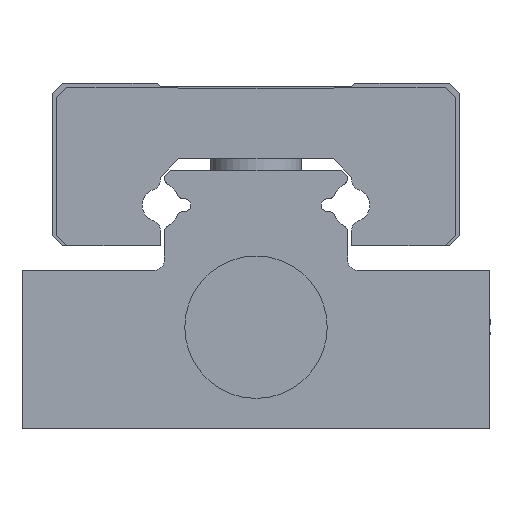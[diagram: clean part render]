
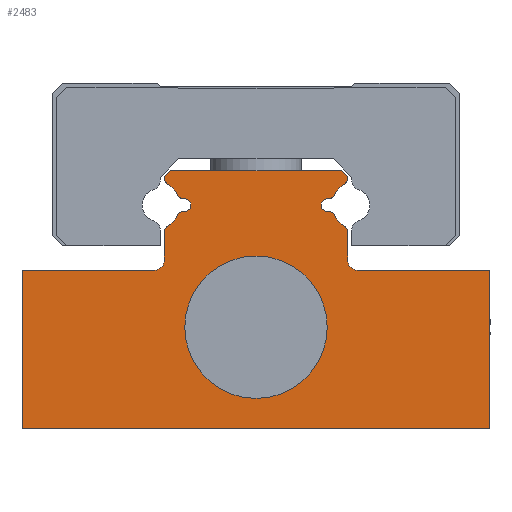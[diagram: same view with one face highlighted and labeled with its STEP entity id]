
A CAD part, front view. The second image highlights one B-rep face of the part: STEP entity #2483.
In plain terms, the highlighted planar face has unit normal (0, -1, 0).
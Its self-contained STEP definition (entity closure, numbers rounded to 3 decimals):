
#92=LINE('',#3748,#308);
#98=LINE('',#3767,#314);
#104=LINE('',#3788,#320);
#110=LINE('',#3801,#326);
#112=LINE('',#3809,#328);
#122=LINE('',#3857,#338);
#125=LINE('',#3863,#341);
#127=LINE('',#3866,#343);
#130=LINE('',#3872,#346);
#140=LINE('',#3920,#356);
#145=LINE('',#3935,#361);
#148=LINE('',#3949,#364);
#308=VECTOR('',#2960,1000.);
#314=VECTOR('',#2974,1000.);
#320=VECTOR('',#2990,1000.);
#326=VECTOR('',#3000,1000.);
#328=VECTOR('',#3010,1000.);
#338=VECTOR('',#3064,1000.);
#341=VECTOR('',#3069,1000.);
#343=VECTOR('',#3073,1000.);
#346=VECTOR('',#3078,1000.);
#356=VECTOR('',#3132,1000.);
#361=VECTOR('',#3147,1000.);
#364=VECTOR('',#3160,1000.);
#690=ORIENTED_EDGE('',*,*,#1308,.T.);
#691=ORIENTED_EDGE('',*,*,#1223,.F.);
#692=ORIENTED_EDGE('',*,*,#1204,.F.);
#693=ORIENTED_EDGE('',*,*,#1305,.F.);
#694=ORIENTED_EDGE('',*,*,#1298,.F.);
#695=ORIENTED_EDGE('',*,*,#1293,.T.);
#696=ORIENTED_EDGE('',*,*,#1290,.F.);
#697=ORIENTED_EDGE('',*,*,#1287,.F.);
#698=ORIENTED_EDGE('',*,*,#1284,.T.);
#699=ORIENTED_EDGE('',*,*,#1281,.F.);
#700=ORIENTED_EDGE('',*,*,#1278,.T.);
#701=ORIENTED_EDGE('',*,*,#1275,.F.);
#702=ORIENTED_EDGE('',*,*,#1272,.T.);
#703=ORIENTED_EDGE('',*,*,#1269,.F.);
#704=ORIENTED_EDGE('',*,*,#1266,.F.);
#705=ORIENTED_EDGE('',*,*,#1263,.F.);
#706=ORIENTED_EDGE('',*,*,#1213,.F.);
#707=ORIENTED_EDGE('',*,*,#1261,.F.);
#708=ORIENTED_EDGE('',*,*,#1258,.F.);
#709=ORIENTED_EDGE('',*,*,#1255,.F.);
#710=ORIENTED_EDGE('',*,*,#1252,.T.);
#711=ORIENTED_EDGE('',*,*,#1249,.F.);
#712=ORIENTED_EDGE('',*,*,#1246,.T.);
#713=ORIENTED_EDGE('',*,*,#1243,.F.);
#714=ORIENTED_EDGE('',*,*,#1240,.T.);
#715=ORIENTED_EDGE('',*,*,#1237,.F.);
#716=ORIENTED_EDGE('',*,*,#1234,.F.);
#717=ORIENTED_EDGE('',*,*,#1231,.T.);
#718=ORIENTED_EDGE('',*,*,#1230,.F.);
#1204=EDGE_CURVE('',#1542,#1543,#92,.T.);
#1213=EDGE_CURVE('',#1551,#1552,#98,.T.);
#1223=EDGE_CURVE('',#1543,#1561,#104,.T.);
#1230=EDGE_CURVE('',#1561,#1564,#110,.T.);
#1231=EDGE_CURVE('',#1566,#1564,#1794,.T.);
#1234=EDGE_CURVE('',#1566,#1568,#112,.T.);
#1237=EDGE_CURVE('',#1568,#1570,#1796,.T.);
#1240=EDGE_CURVE('',#1572,#1570,#1798,.T.);
#1243=EDGE_CURVE('',#1572,#1574,#1800,.T.);
#1246=EDGE_CURVE('',#1576,#1574,#1802,.T.);
#1249=EDGE_CURVE('',#1576,#1578,#1804,.T.);
#1252=EDGE_CURVE('',#1580,#1578,#1806,.T.);
#1255=EDGE_CURVE('',#1580,#1582,#1808,.T.);
#1258=EDGE_CURVE('',#1582,#1584,#122,.T.);
#1261=EDGE_CURVE('',#1584,#1551,#125,.T.);
#1263=EDGE_CURVE('',#1552,#1586,#127,.T.);
#1266=EDGE_CURVE('',#1586,#1588,#130,.T.);
#1269=EDGE_CURVE('',#1588,#1590,#1810,.T.);
#1272=EDGE_CURVE('',#1592,#1590,#1812,.T.);
#1275=EDGE_CURVE('',#1592,#1594,#1814,.T.);
#1278=EDGE_CURVE('',#1596,#1594,#1816,.T.);
#1281=EDGE_CURVE('',#1596,#1598,#1818,.T.);
#1284=EDGE_CURVE('',#1600,#1598,#1820,.T.);
#1287=EDGE_CURVE('',#1600,#1602,#1822,.T.);
#1290=EDGE_CURVE('',#1602,#1604,#140,.T.);
#1293=EDGE_CURVE('',#1606,#1604,#1824,.T.);
#1298=EDGE_CURVE('',#1606,#1609,#145,.T.);
#1305=EDGE_CURVE('',#1609,#1542,#148,.T.);
#1308=EDGE_CURVE('',#1616,#1616,#1832,.T.);
#1542=VERTEX_POINT('',#3749);
#1543=VERTEX_POINT('',#3750);
#1551=VERTEX_POINT('',#3768);
#1552=VERTEX_POINT('',#3769);
#1561=VERTEX_POINT('',#3789);
#1564=VERTEX_POINT('',#3796);
#1566=VERTEX_POINT('',#3804);
#1568=VERTEX_POINT('',#3810);
#1570=VERTEX_POINT('',#3816);
#1572=VERTEX_POINT('',#3822);
#1574=VERTEX_POINT('',#3828);
#1576=VERTEX_POINT('',#3834);
#1578=VERTEX_POINT('',#3840);
#1580=VERTEX_POINT('',#3846);
#1582=VERTEX_POINT('',#3852);
#1584=VERTEX_POINT('',#3858);
#1586=VERTEX_POINT('',#3867);
#1588=VERTEX_POINT('',#3873);
#1590=VERTEX_POINT('',#3879);
#1592=VERTEX_POINT('',#3885);
#1594=VERTEX_POINT('',#3891);
#1596=VERTEX_POINT('',#3897);
#1598=VERTEX_POINT('',#3903);
#1600=VERTEX_POINT('',#3909);
#1602=VERTEX_POINT('',#3915);
#1604=VERTEX_POINT('',#3921);
#1606=VERTEX_POINT('',#3927);
#1609=VERTEX_POINT('',#3936);
#1616=VERTEX_POINT('',#3956);
#1794=CIRCLE('',#2677,0.5);
#1796=CIRCLE('',#2681,0.3);
#1798=CIRCLE('',#2684,1.1);
#1800=CIRCLE('',#2687,0.3);
#1802=CIRCLE('',#2690,0.32);
#1804=CIRCLE('',#2693,0.3);
#1806=CIRCLE('',#2696,1.1);
#1808=CIRCLE('',#2699,0.3);
#1810=CIRCLE('',#2706,0.3);
#1812=CIRCLE('',#2709,1.1);
#1814=CIRCLE('',#2712,0.3);
#1816=CIRCLE('',#2715,0.32);
#1818=CIRCLE('',#2718,0.3);
#1820=CIRCLE('',#2721,1.1);
#1822=CIRCLE('',#2724,0.3);
#1824=CIRCLE('',#2728,0.5);
#1832=CIRCLE('',#2740,3.5);
#1946=EDGE_LOOP('',(#690));
#1947=EDGE_LOOP('',(#691,#692,#693,#694,#695,#696,#697,#698,#699,#700,#701,
#702,#703,#704,#705,#706,#707,#708,#709,#710,#711,#712,#713,#714,#715,#716,
#717,#718));
#2176=FACE_BOUND('',#1946,.T.);
#2177=FACE_BOUND('',#1947,.T.);
#2377=PLANE('',#2739);
#2483=ADVANCED_FACE('',(#2176,#2177),#2377,.F.);
#2677=AXIS2_PLACEMENT_3D('',#3803,#3003,#3004);
#2681=AXIS2_PLACEMENT_3D('',#3815,#3015,#3016);
#2684=AXIS2_PLACEMENT_3D('',#3821,#3022,#3023);
#2687=AXIS2_PLACEMENT_3D('',#3827,#3029,#3030);
#2690=AXIS2_PLACEMENT_3D('',#3833,#3036,#3037);
#2693=AXIS2_PLACEMENT_3D('',#3839,#3043,#3044);
#2696=AXIS2_PLACEMENT_3D('',#3845,#3050,#3051);
#2699=AXIS2_PLACEMENT_3D('',#3851,#3057,#3058);
#2706=AXIS2_PLACEMENT_3D('',#3878,#3083,#3084);
#2709=AXIS2_PLACEMENT_3D('',#3884,#3090,#3091);
#2712=AXIS2_PLACEMENT_3D('',#3890,#3097,#3098);
#2715=AXIS2_PLACEMENT_3D('',#3896,#3104,#3105);
#2718=AXIS2_PLACEMENT_3D('',#3902,#3111,#3112);
#2721=AXIS2_PLACEMENT_3D('',#3908,#3118,#3119);
#2724=AXIS2_PLACEMENT_3D('',#3914,#3125,#3126);
#2728=AXIS2_PLACEMENT_3D('',#3926,#3137,#3138);
#2739=AXIS2_PLACEMENT_3D('',#3954,#3166,#3167);
#2740=AXIS2_PLACEMENT_3D('',#3955,#3168,#3169);
#2960=DIRECTION('',(-1.,0.,0.));
#2974=DIRECTION('',(1.,0.,0.));
#2990=DIRECTION('',(0.,0.,1.));
#3000=DIRECTION('',(1.,0.,0.));
#3003=DIRECTION('',(0.,1.,0.));
#3004=DIRECTION('',(1.,0.,0.));
#3010=DIRECTION('',(0.,0.,1.));
#3015=DIRECTION('',(0.,1.,0.));
#3016=DIRECTION('',(1.,0.,0.));
#3022=DIRECTION('',(0.,1.,0.));
#3023=DIRECTION('',(1.,0.,0.));
#3029=DIRECTION('',(0.,1.,0.));
#3030=DIRECTION('',(1.,0.,0.));
#3036=DIRECTION('',(0.,1.,0.));
#3037=DIRECTION('',(1.,0.,0.));
#3043=DIRECTION('',(0.,1.,0.));
#3044=DIRECTION('',(1.,0.,0.));
#3050=DIRECTION('',(0.,1.,0.));
#3051=DIRECTION('',(1.,0.,0.));
#3057=DIRECTION('',(0.,1.,0.));
#3058=DIRECTION('',(1.,0.,0.));
#3064=DIRECTION('',(0.,0.,1.));
#3069=DIRECTION('',(0.707,0.,0.707));
#3073=DIRECTION('',(0.707,0.,-0.707));
#3078=DIRECTION('',(0.,0.,-1.));
#3083=DIRECTION('',(0.,1.,0.));
#3084=DIRECTION('',(1.,0.,0.));
#3090=DIRECTION('',(0.,1.,0.));
#3091=DIRECTION('',(1.,0.,0.));
#3097=DIRECTION('',(0.,1.,0.));
#3098=DIRECTION('',(1.,0.,0.));
#3104=DIRECTION('',(0.,1.,0.));
#3105=DIRECTION('',(1.,0.,0.));
#3111=DIRECTION('',(0.,1.,0.));
#3112=DIRECTION('',(1.,0.,0.));
#3118=DIRECTION('',(0.,1.,0.));
#3119=DIRECTION('',(1.,0.,0.));
#3125=DIRECTION('',(0.,1.,0.));
#3126=DIRECTION('',(1.,0.,0.));
#3132=DIRECTION('',(0.,0.,-1.));
#3137=DIRECTION('',(0.,1.,0.));
#3138=DIRECTION('',(1.,0.,0.));
#3147=DIRECTION('',(1.,0.,0.));
#3160=DIRECTION('',(0.,0.,-1.));
#3166=DIRECTION('',(0.,1.,0.));
#3167=DIRECTION('',(0.,0.,1.));
#3168=DIRECTION('',(0.,1.,0.));
#3169=DIRECTION('',(1.,0.,0.));
#3748=CARTESIAN_POINT('',(11.5,0.,0.));
#3749=CARTESIAN_POINT('',(11.5,0.,0.));
#3750=CARTESIAN_POINT('',(-11.5,0.,0.));
#3767=CARTESIAN_POINT('',(-4.2,0.,12.7));
#3768=CARTESIAN_POINT('',(-4.2,0.,12.7));
#3769=CARTESIAN_POINT('',(4.2,0.,12.7));
#3788=CARTESIAN_POINT('',(-11.5,0.,0.));
#3789=CARTESIAN_POINT('',(-11.5,0.,7.8));
#3796=CARTESIAN_POINT('',(-5.,0.,7.8));
#3801=CARTESIAN_POINT('',(-11.5,0.,7.8));
#3803=CARTESIAN_POINT('',(-5.,0.,8.3));
#3804=CARTESIAN_POINT('',(-4.5,0.,8.3));
#3809=CARTESIAN_POINT('',(-4.5,0.,8.3));
#3810=CARTESIAN_POINT('',(-4.5,0.,9.701));
#3815=CARTESIAN_POINT('',(-4.2,0.,9.701));
#3816=CARTESIAN_POINT('',(-4.344,0.,9.964));
#3821=CARTESIAN_POINT('',(-4.87,0.,10.93));
#3822=CARTESIAN_POINT('',(-3.857,0.,10.5));
#3827=CARTESIAN_POINT('',(-3.581,0.,10.383));
#3828=CARTESIAN_POINT('',(-3.552,0.,10.682));
#3833=CARTESIAN_POINT('',(-3.52,0.,11.));
#3834=CARTESIAN_POINT('',(-3.552,0.,11.318));
#3839=CARTESIAN_POINT('',(-3.581,0.,11.617));
#3840=CARTESIAN_POINT('',(-3.857,0.,11.5));
#3845=CARTESIAN_POINT('',(-4.87,0.,11.07));
#3846=CARTESIAN_POINT('',(-4.344,0.,12.036));
#3851=CARTESIAN_POINT('',(-4.2,0.,12.299));
#3852=CARTESIAN_POINT('',(-4.5,0.,12.299));
#3857=CARTESIAN_POINT('',(-4.5,0.,12.299));
#3858=CARTESIAN_POINT('',(-4.5,0.,12.4));
#3863=CARTESIAN_POINT('',(-4.5,0.,12.4));
#3866=CARTESIAN_POINT('',(4.2,0.,12.7));
#3867=CARTESIAN_POINT('',(4.5,0.,12.4));
#3872=CARTESIAN_POINT('',(4.5,0.,12.4));
#3873=CARTESIAN_POINT('',(4.5,0.,12.299));
#3878=CARTESIAN_POINT('',(4.2,0.,12.299));
#3879=CARTESIAN_POINT('',(4.344,0.,12.036));
#3884=CARTESIAN_POINT('',(4.87,0.,11.07));
#3885=CARTESIAN_POINT('',(3.857,0.,11.5));
#3890=CARTESIAN_POINT('',(3.581,0.,11.617));
#3891=CARTESIAN_POINT('',(3.552,0.,11.318));
#3896=CARTESIAN_POINT('',(3.52,0.,11.));
#3897=CARTESIAN_POINT('',(3.552,0.,10.682));
#3902=CARTESIAN_POINT('',(3.581,0.,10.383));
#3903=CARTESIAN_POINT('',(3.857,0.,10.5));
#3908=CARTESIAN_POINT('',(4.87,0.,10.93));
#3909=CARTESIAN_POINT('',(4.344,0.,9.964));
#3914=CARTESIAN_POINT('',(4.2,0.,9.701));
#3915=CARTESIAN_POINT('',(4.5,0.,9.701));
#3920=CARTESIAN_POINT('',(4.5,0.,9.701));
#3921=CARTESIAN_POINT('',(4.5,0.,8.3));
#3926=CARTESIAN_POINT('',(5.,0.,8.3));
#3927=CARTESIAN_POINT('',(5.,0.,7.8));
#3935=CARTESIAN_POINT('',(5.,0.,7.8));
#3936=CARTESIAN_POINT('',(11.5,0.,7.8));
#3949=CARTESIAN_POINT('',(11.5,0.,7.8));
#3954=CARTESIAN_POINT('',(-5.,0.,8.3));
#3955=CARTESIAN_POINT('',(0.,0.,5.));
#3956=CARTESIAN_POINT('',(3.5,0.,5.));
